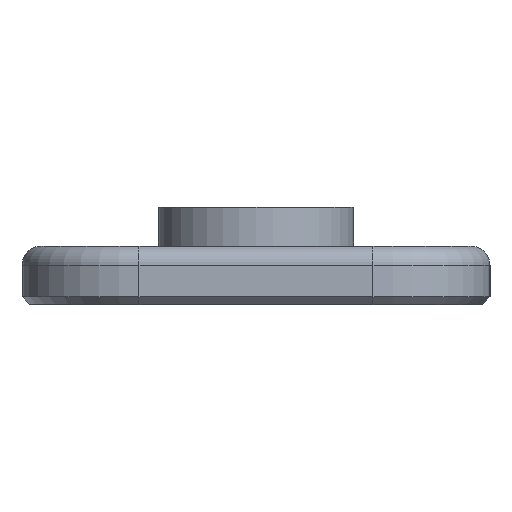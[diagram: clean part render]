
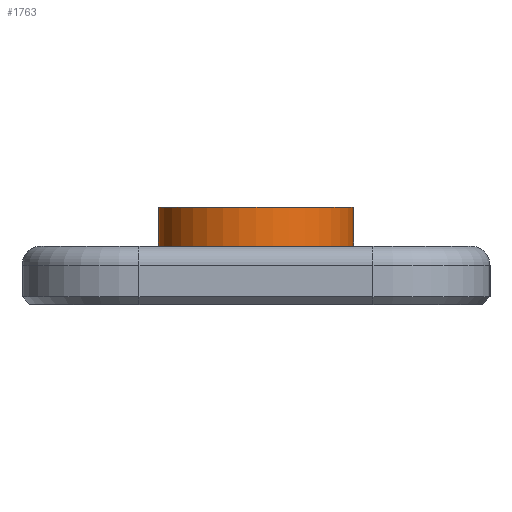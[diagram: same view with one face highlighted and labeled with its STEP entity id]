
A CAD part, left-side view. The second image highlights one B-rep face of the part: STEP entity #1763.
In plain terms, the highlighted cylindrical face has radius 2.5 mm (diameter 5 mm), a full revolution.
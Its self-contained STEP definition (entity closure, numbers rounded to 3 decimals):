
#362 = PLANE('',#363);
#363 = AXIS2_PLACEMENT_3D('',#364,#365,#366);
#364 = CARTESIAN_POINT('',(0.,0.,1.5));
#365 = DIRECTION('',(0.,0.,1.));
#366 = DIRECTION('',(1.,0.,-0.));
#1110 = EDGE_CURVE('',#1111,#1111,#1113,.T.);
#1111 = VERTEX_POINT('',#1112);
#1112 = CARTESIAN_POINT('',(-61.5,0.,1.5));
#1113 = SURFACE_CURVE('',#1114,(#1119,#1126),.PCURVE_S1.);
#1114 = CIRCLE('',#1115,2.5);
#1115 = AXIS2_PLACEMENT_3D('',#1116,#1117,#1118);
#1116 = CARTESIAN_POINT('',(-64.,0.,1.5));
#1117 = DIRECTION('',(0.,0.,1.));
#1118 = DIRECTION('',(1.,0.,-0.));
#1119 = PCURVE('',#362,#1120);
#1120 = DEFINITIONAL_REPRESENTATION('',(#1121),#1125);
#1121 = CIRCLE('',#1122,2.5);
#1122 = AXIS2_PLACEMENT_2D('',#1123,#1124);
#1123 = CARTESIAN_POINT('',(-64.,0.));
#1124 = DIRECTION('',(1.,0.));
#1125 = ( GEOMETRIC_REPRESENTATION_CONTEXT(2) 
PARAMETRIC_REPRESENTATION_CONTEXT() REPRESENTATION_CONTEXT('2D SPACE',''
  ) );
#1126 = PCURVE('',#1127,#1132);
#1127 = CYLINDRICAL_SURFACE('',#1128,2.5);
#1128 = AXIS2_PLACEMENT_3D('',#1129,#1130,#1131);
#1129 = CARTESIAN_POINT('',(-64.,0.,1.49));
#1130 = DIRECTION('',(0.,0.,1.));
#1131 = DIRECTION('',(1.,0.,-0.));
#1132 = DEFINITIONAL_REPRESENTATION('',(#1133),#1137);
#1133 = LINE('',#1134,#1135);
#1134 = CARTESIAN_POINT('',(0.,0.01));
#1135 = VECTOR('',#1136,1.);
#1136 = DIRECTION('',(1.,0.));
#1137 = ( GEOMETRIC_REPRESENTATION_CONTEXT(2) 
PARAMETRIC_REPRESENTATION_CONTEXT() REPRESENTATION_CONTEXT('2D SPACE',''
  ) );
#1546 = PLANE('',#1547);
#1547 = AXIS2_PLACEMENT_3D('',#1548,#1549,#1550);
#1548 = CARTESIAN_POINT('',(-64.,0.,2.49));
#1549 = DIRECTION('',(0.,0.,1.));
#1550 = DIRECTION('',(1.,0.,-0.));
#1763 = ADVANCED_FACE('',(#1764),#1127,.T.);
#1764 = FACE_BOUND('',#1765,.T.);
#1765 = EDGE_LOOP('',(#1766,#1789,#1811,#1812));
#1766 = ORIENTED_EDGE('',*,*,#1767,.T.);
#1767 = EDGE_CURVE('',#1111,#1768,#1770,.T.);
#1768 = VERTEX_POINT('',#1769);
#1769 = CARTESIAN_POINT('',(-61.5,0.,2.49));
#1770 = SEAM_CURVE('',#1771,(#1775,#1782),.PCURVE_S1.);
#1771 = LINE('',#1772,#1773);
#1772 = CARTESIAN_POINT('',(-61.5,0.,1.49));
#1773 = VECTOR('',#1774,1.);
#1774 = DIRECTION('',(0.,0.,1.));
#1775 = PCURVE('',#1127,#1776);
#1776 = DEFINITIONAL_REPRESENTATION('',(#1777),#1781);
#1777 = LINE('',#1778,#1779);
#1778 = CARTESIAN_POINT('',(6.283,-0.));
#1779 = VECTOR('',#1780,1.);
#1780 = DIRECTION('',(0.,1.));
#1781 = ( GEOMETRIC_REPRESENTATION_CONTEXT(2) 
PARAMETRIC_REPRESENTATION_CONTEXT() REPRESENTATION_CONTEXT('2D SPACE',''
  ) );
#1782 = PCURVE('',#1127,#1783);
#1783 = DEFINITIONAL_REPRESENTATION('',(#1784),#1788);
#1784 = LINE('',#1785,#1786);
#1785 = CARTESIAN_POINT('',(0.,-0.));
#1786 = VECTOR('',#1787,1.);
#1787 = DIRECTION('',(0.,1.));
#1788 = ( GEOMETRIC_REPRESENTATION_CONTEXT(2) 
PARAMETRIC_REPRESENTATION_CONTEXT() REPRESENTATION_CONTEXT('2D SPACE',''
  ) );
#1789 = ORIENTED_EDGE('',*,*,#1790,.F.);
#1790 = EDGE_CURVE('',#1768,#1768,#1791,.T.);
#1791 = SURFACE_CURVE('',#1792,(#1797,#1804),.PCURVE_S1.);
#1792 = CIRCLE('',#1793,2.5);
#1793 = AXIS2_PLACEMENT_3D('',#1794,#1795,#1796);
#1794 = CARTESIAN_POINT('',(-64.,0.,2.49));
#1795 = DIRECTION('',(0.,0.,1.));
#1796 = DIRECTION('',(1.,0.,-0.));
#1797 = PCURVE('',#1127,#1798);
#1798 = DEFINITIONAL_REPRESENTATION('',(#1799),#1803);
#1799 = LINE('',#1800,#1801);
#1800 = CARTESIAN_POINT('',(0.,1.));
#1801 = VECTOR('',#1802,1.);
#1802 = DIRECTION('',(1.,0.));
#1803 = ( GEOMETRIC_REPRESENTATION_CONTEXT(2) 
PARAMETRIC_REPRESENTATION_CONTEXT() REPRESENTATION_CONTEXT('2D SPACE',''
  ) );
#1804 = PCURVE('',#1546,#1805);
#1805 = DEFINITIONAL_REPRESENTATION('',(#1806),#1810);
#1806 = CIRCLE('',#1807,2.5);
#1807 = AXIS2_PLACEMENT_2D('',#1808,#1809);
#1808 = CARTESIAN_POINT('',(0.,0.));
#1809 = DIRECTION('',(1.,0.));
#1810 = ( GEOMETRIC_REPRESENTATION_CONTEXT(2) 
PARAMETRIC_REPRESENTATION_CONTEXT() REPRESENTATION_CONTEXT('2D SPACE',''
  ) );
#1811 = ORIENTED_EDGE('',*,*,#1767,.F.);
#1812 = ORIENTED_EDGE('',*,*,#1110,.T.);
